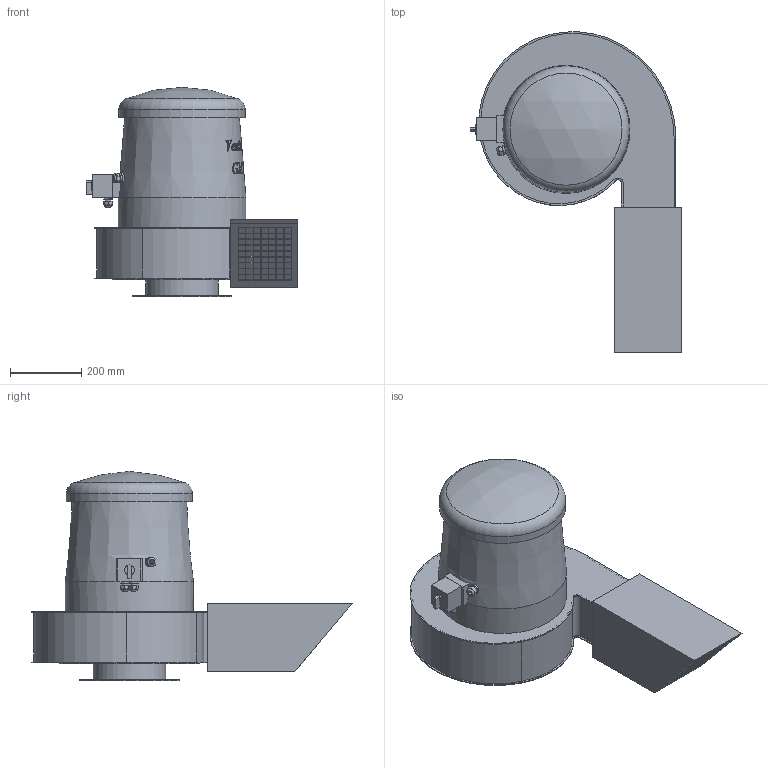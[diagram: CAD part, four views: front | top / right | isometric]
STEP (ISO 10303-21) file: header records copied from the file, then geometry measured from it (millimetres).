
FILE_DESCRIPTION(/* description */ (''),/* implementation_level */ '2;1');
FILE_NAME(/* name */ 'E:\Mariusz\Modele uproszczone\GMT-R\GMT-R_300 43552285\GMT-R_300 43552285\GMT-R_300 43552285.stp',/* time_stamp */ '2018-06-22T10:42:54+02:00',/* author */ ('M.Janczarek'),/* organization */ (''),/* preprocessor_version */ 'ST-DEVELOPER v16.5',/* originating_system */ 'Autodesk Inventor 2017',/* authorisation */ '');
FILE_SCHEMA (('AUTOMOTIVE_DESIGN { 1 0 10303 214 3 1 1 }'));
Length unit declared in the file: millimetre
Products named in the file (1): GMT-R_300 43552285
Bounding box: 596.25 x 900.74 x 588.5 mm (x, y, z)
Volume: 79089448.8 mm3; surface area: 1577896.5 mm2
Topology: 1 solids, 1 shells, 1093 faces, 2897 edges, 1926 vertices
Faces by surface type: plane 527, bspline 457, cylinder 65, cone 41, torus 2, sphere 1
Full cylindrical faces by diameter (mm): 8 x8, 9.427 x1, 11.5 x2, 13.5 x2, 18 x2, 22.3 x1, 25 x1, 28 x1, 200 x1, 204 x1, 280 x1, 355 x1, 360 x1, 393 x1
Entity records: 41621 total; most frequent: CARTESIAN_POINT 16501, ORIENTED_EDGE 5716, DIRECTION 3651, EDGE_CURVE 2858, VERTEX_POINT 1917, LINE 1743, VECTOR 1743, EDGE_LOOP 1259
